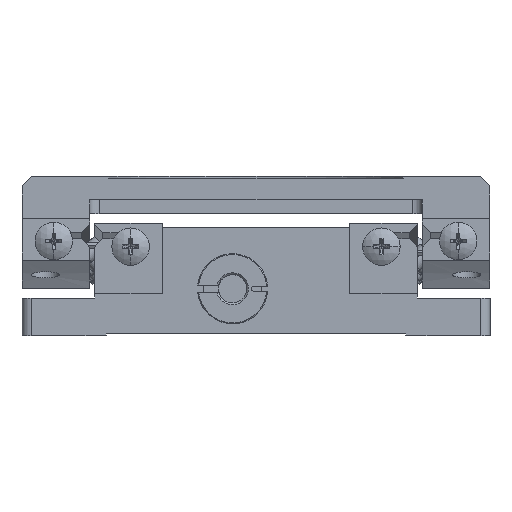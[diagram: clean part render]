
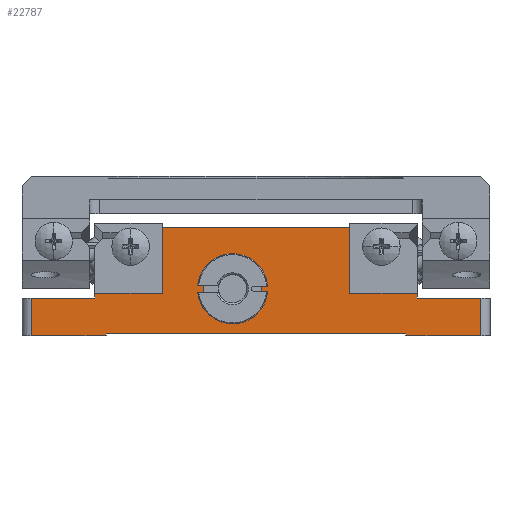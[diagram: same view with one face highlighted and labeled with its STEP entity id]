
A CAD part, front view. The second image highlights one B-rep face of the part: STEP entity #22787.
In plain terms, the highlighted planar face has unit normal (0, -1, 0).
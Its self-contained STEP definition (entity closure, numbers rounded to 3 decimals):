
#815 = VECTOR ( 'NONE', #33371, 1000. ) ;
#1349 = DIRECTION ( 'NONE',  ( 1., 0., 0. ) ) ;
#1507 = ORIENTED_EDGE ( 'NONE', *, *, #43528, .F. ) ;
#1777 = CARTESIAN_POINT ( 'NONE',  ( 25., -25., 6.5 ) ) ;
#2418 = CARTESIAN_POINT ( 'NONE',  ( -17.25, -25., -1. ) ) ;
#2713 = EDGE_CURVE ( 'NONE', #22288, #34341, #23140, .T. ) ;
#3032 = CARTESIAN_POINT ( 'NONE',  ( -25., -25., 7. ) ) ;
#3123 = ORIENTED_EDGE ( 'NONE', *, *, #36102, .T. ) ;
#3154 = CARTESIAN_POINT ( 'NONE',  ( -2.5, -25., 0. ) ) ;
#3488 = EDGE_CURVE ( 'NONE', #13473, #47605, #25960, .T. ) ;
#3535 = CARTESIAN_POINT ( 'NONE',  ( -16., -25., -4.8 ) ) ;
#3538 = CARTESIAN_POINT ( 'NONE',  ( 16., -25., -4.8 ) ) ;
#3641 = EDGE_CURVE ( 'NONE', #53064, #15900, #32505, .T. ) ;
#3981 = CARTESIAN_POINT ( 'NONE',  ( -2.5, -25., 0. ) ) ;
#4367 = VECTOR ( 'NONE', #48666, 1000. ) ;
#4608 = VECTOR ( 'NONE', #45109, 1000. ) ;
#5164 = VERTEX_POINT ( 'NONE', #51922 ) ;
#5243 = CARTESIAN_POINT ( 'NONE',  ( -10., -25., 7. ) ) ;
#5514 = CARTESIAN_POINT ( 'NONE',  ( -25., -25., -5. ) ) ;
#5677 = LINE ( 'NONE', #3535, #4367 ) ;
#5919 = VECTOR ( 'NONE', #51327, 1000. ) ;
#6031 = EDGE_CURVE ( 'NONE', #36303, #12387, #17495, .T. ) ;
#6278 = VECTOR ( 'NONE', #27615, 1000. ) ;
#6536 = LINE ( 'NONE', #1777, #38809 ) ;
#6719 = VECTOR ( 'NONE', #38466, 1000. ) ;
#6900 = DIRECTION ( 'NONE',  ( 0., 0., 1. ) ) ;
#7266 = DIRECTION ( 'NONE',  ( 0., 0., 1. ) ) ;
#7388 = DIRECTION ( 'NONE',  ( 0., 0., -1. ) ) ;
#7488 = VECTOR ( 'NONE', #19828, 1000. ) ;
#7775 = DIRECTION ( 'NONE',  ( 0., 0., -1. ) ) ;
#8212 = DIRECTION ( 'NONE',  ( 0., 0., -1. ) ) ;
#8345 = CARTESIAN_POINT ( 'NONE',  ( 10., -25., 6.5 ) ) ;
#8346 = CIRCLE ( 'NONE', #21272, 3.1 ) ;
#8361 = LINE ( 'NONE', #3538, #51701 ) ;
#8886 = LINE ( 'NONE', #11877, #52225 ) ;
#9634 = LINE ( 'NONE', #5514, #40568 ) ;
#9700 = CARTESIAN_POINT ( 'NONE',  ( -17.25, -25., -0.5 ) ) ;
#9873 = EDGE_CURVE ( 'NONE', #47605, #38324, #8886, .T. ) ;
#10284 = CARTESIAN_POINT ( 'NONE',  ( -24., -25., 7. ) ) ;
#10793 = ORIENTED_EDGE ( 'NONE', *, *, #20583, .T. ) ;
#11037 = VERTEX_POINT ( 'NONE', #11730 ) ;
#11205 = LINE ( 'NONE', #5243, #5919 ) ;
#11675 = VECTOR ( 'NONE', #49552, 1000. ) ;
#11730 = CARTESIAN_POINT ( 'NONE',  ( -10., -25., 6.5 ) ) ;
#11877 = CARTESIAN_POINT ( 'NONE',  ( -25., -25., -5. ) ) ;
#12387 = VERTEX_POINT ( 'NONE', #28390 ) ;
#12409 = CARTESIAN_POINT ( 'NONE',  ( 10., -25., 7. ) ) ;
#12822 = EDGE_CURVE ( 'NONE', #12387, #38324, #5677, .T. ) ;
#13020 = LINE ( 'NONE', #53744, #11675 ) ;
#13473 = VERTEX_POINT ( 'NONE', #34516 ) ;
#13613 = CARTESIAN_POINT ( 'NONE',  ( 16., -25., -5. ) ) ;
#13780 = EDGE_CURVE ( 'NONE', #34341, #53064, #52126, .T. ) ;
#13903 = ORIENTED_EDGE ( 'NONE', *, *, #34628, .T. ) ;
#14697 = ORIENTED_EDGE ( 'NONE', *, *, #3488, .T. ) ;
#15529 = PLANE ( 'NONE',  #25633 ) ;
#15582 = CARTESIAN_POINT ( 'NONE',  ( -25., -25., -0.5 ) ) ;
#15667 = ORIENTED_EDGE ( 'NONE', *, *, #13780, .F. ) ;
#15748 = CARTESIAN_POINT ( 'NONE',  ( -25., -25., -0.5 ) ) ;
#15900 = VERTEX_POINT ( 'NONE', #21071 ) ;
#16138 = LINE ( 'NONE', #32065, #38542 ) ;
#16469 = ORIENTED_EDGE ( 'NONE', *, *, #6031, .F. ) ;
#17245 = ORIENTED_EDGE ( 'NONE', *, *, #21928, .F. ) ;
#17495 = LINE ( 'NONE', #41425, #6278 ) ;
#18068 = EDGE_CURVE ( 'NONE', #5164, #41981, #38981, .T. ) ;
#18472 = ORIENTED_EDGE ( 'NONE', *, *, #9873, .T. ) ;
#19267 = VERTEX_POINT ( 'NONE', #2418 ) ;
#19828 = DIRECTION ( 'NONE',  ( 1., 0., 0. ) ) ;
#20583 = EDGE_CURVE ( 'NONE', #32853, #44635, #49275, .T. ) ;
#21071 = CARTESIAN_POINT ( 'NONE',  ( 17.25, -25., -1. ) ) ;
#21272 = AXIS2_PLACEMENT_3D ( 'NONE', #3154, #32554, #7388 ) ;
#21301 = VECTOR ( 'NONE', #39079, 1000. ) ;
#21928 = EDGE_CURVE ( 'NONE', #32853, #11037, #11205, .T. ) ;
#21932 = CARTESIAN_POINT ( 'NONE',  ( 24., -25., -1. ) ) ;
#22288 = VERTEX_POINT ( 'NONE', #8345 ) ;
#22787 = ADVANCED_FACE ( 'NONE', ( #42589, #46514 ), #15529, .F. ) ;
#23019 = ORIENTED_EDGE ( 'NONE', *, *, #45842, .F. ) ;
#23140 = LINE ( 'NONE', #12409, #815 ) ;
#23169 = DIRECTION ( 'NONE',  ( -1., 0., 0. ) ) ;
#23656 = ORIENTED_EDGE ( 'NONE', *, *, #18068, .T. ) ;
#23824 = CARTESIAN_POINT ( 'NONE',  ( -2.5, -25., 3.1 ) ) ;
#24035 = ORIENTED_EDGE ( 'NONE', *, *, #2713, .F. ) ;
#25221 = EDGE_CURVE ( 'NONE', #15900, #41981, #13020, .T. ) ;
#25297 = ORIENTED_EDGE ( 'NONE', *, *, #51459, .F. ) ;
#25633 = AXIS2_PLACEMENT_3D ( 'NONE', #3032, #32434, #7266 ) ;
#25960 = LINE ( 'NONE', #10284, #48254 ) ;
#27615 = DIRECTION ( 'NONE',  ( -1., 0., 0. ) ) ;
#28390 = CARTESIAN_POINT ( 'NONE',  ( -16., -25., -4.8 ) ) ;
#30748 = VECTOR ( 'NONE', #23169, 1000. ) ;
#31176 = DIRECTION ( 'NONE',  ( 1., 0., 0. ) ) ;
#31278 = ORIENTED_EDGE ( 'NONE', *, *, #12822, .F. ) ;
#32065 = CARTESIAN_POINT ( 'NONE',  ( -17.25, -25., 7. ) ) ;
#32434 = DIRECTION ( 'NONE',  ( 0., 1., 0. ) ) ;
#32505 = LINE ( 'NONE', #51455, #21301 ) ;
#32554 = DIRECTION ( 'NONE',  ( 0., -1., 0. ) ) ;
#32853 = VERTEX_POINT ( 'NONE', #52150 ) ;
#33371 = DIRECTION ( 'NONE',  ( 0., 0., -1. ) ) ;
#33399 = DIRECTION ( 'NONE',  ( 0., -1., 0. ) ) ;
#34341 = VERTEX_POINT ( 'NONE', #50152 ) ;
#34516 = CARTESIAN_POINT ( 'NONE',  ( -24., -25., -1. ) ) ;
#34628 = EDGE_CURVE ( 'NONE', #19267, #13473, #52994, .T. ) ;
#35362 = VERTEX_POINT ( 'NONE', #36897 ) ;
#36018 = CIRCLE ( 'NONE', #51087, 3.1 ) ;
#36048 = CARTESIAN_POINT ( 'NONE',  ( -16., -25., -5. ) ) ;
#36053 = CARTESIAN_POINT ( 'NONE',  ( 16., -25., -4.8 ) ) ;
#36102 = EDGE_CURVE ( 'NONE', #46677, #5164, #9634, .T. ) ;
#36303 = VERTEX_POINT ( 'NONE', #36053 ) ;
#36897 = CARTESIAN_POINT ( 'NONE',  ( -2.5, -25., -3.1 ) ) ;
#38324 = VERTEX_POINT ( 'NONE', #36048 ) ;
#38466 = DIRECTION ( 'NONE',  ( 0., 0., 1. ) ) ;
#38542 = VECTOR ( 'NONE', #6900, 1000. ) ;
#38809 = VECTOR ( 'NONE', #31176, 1000. ) ;
#38981 = LINE ( 'NONE', #51034, #6719 ) ;
#39079 = DIRECTION ( 'NONE',  ( 0., 0., -1. ) ) ;
#39756 = DIRECTION ( 'NONE',  ( 0., 0., -1. ) ) ;
#40568 = VECTOR ( 'NONE', #1349, 1000. ) ;
#41425 = CARTESIAN_POINT ( 'NONE',  ( -25., -25., -4.8 ) ) ;
#41634 = VERTEX_POINT ( 'NONE', #23824 ) ;
#41688 = CARTESIAN_POINT ( 'NONE',  ( 17.25, -25., -0.5 ) ) ;
#41981 = VERTEX_POINT ( 'NONE', #21932 ) ;
#42054 = EDGE_LOOP ( 'NONE', ( #31278, #16469, #48997, #3123, #23656, #42182, #49157, #15667, #24035, #1507, #17245, #10793, #23019, #13903, #14697, #18472 ) ) ;
#42182 = ORIENTED_EDGE ( 'NONE', *, *, #25221, .F. ) ;
#42589 = FACE_BOUND ( 'NONE', #52567, .T. ) ;
#43528 = EDGE_CURVE ( 'NONE', #11037, #22288, #6536, .T. ) ;
#44635 = VERTEX_POINT ( 'NONE', #9700 ) ;
#45109 = DIRECTION ( 'NONE',  ( -1., 0., 0. ) ) ;
#45842 = EDGE_CURVE ( 'NONE', #19267, #44635, #16138, .T. ) ;
#46511 = ORIENTED_EDGE ( 'NONE', *, *, #48053, .F. ) ;
#46514 = FACE_OUTER_BOUND ( 'NONE', #42054, .T. ) ;
#46677 = VERTEX_POINT ( 'NONE', #13613 ) ;
#47605 = VERTEX_POINT ( 'NONE', #54365 ) ;
#48053 = EDGE_CURVE ( 'NONE', #35362, #41634, #8346, .T. ) ;
#48254 = VECTOR ( 'NONE', #39756, 1000. ) ;
#48281 = CARTESIAN_POINT ( 'NONE',  ( -25., -25., -1. ) ) ;
#48666 = DIRECTION ( 'NONE',  ( 0., 0., -1. ) ) ;
#48818 = EDGE_CURVE ( 'NONE', #36303, #46677, #8361, .T. ) ;
#48997 = ORIENTED_EDGE ( 'NONE', *, *, #48818, .T. ) ;
#49157 = ORIENTED_EDGE ( 'NONE', *, *, #3641, .F. ) ;
#49275 = LINE ( 'NONE', #15748, #4608 ) ;
#49552 = DIRECTION ( 'NONE',  ( 1., 0., 0. ) ) ;
#50152 = CARTESIAN_POINT ( 'NONE',  ( 10., -25., -0.5 ) ) ;
#51034 = CARTESIAN_POINT ( 'NONE',  ( 24., -25., 7. ) ) ;
#51087 = AXIS2_PLACEMENT_3D ( 'NONE', #3981, #33399, #8212 ) ;
#51327 = DIRECTION ( 'NONE',  ( 0., 0., 1. ) ) ;
#51455 = CARTESIAN_POINT ( 'NONE',  ( 17.25, -25., 7. ) ) ;
#51459 = EDGE_CURVE ( 'NONE', #41634, #35362, #36018, .T. ) ;
#51701 = VECTOR ( 'NONE', #7775, 1000. ) ;
#51922 = CARTESIAN_POINT ( 'NONE',  ( 24., -25., -5. ) ) ;
#52126 = LINE ( 'NONE', #15582, #7488 ) ;
#52150 = CARTESIAN_POINT ( 'NONE',  ( -10., -25., -0.5 ) ) ;
#52225 = VECTOR ( 'NONE', #53862, 1000. ) ;
#52567 = EDGE_LOOP ( 'NONE', ( #46511, #25297 ) ) ;
#52994 = LINE ( 'NONE', #48281, #30748 ) ;
#53064 = VERTEX_POINT ( 'NONE', #41688 ) ;
#53744 = CARTESIAN_POINT ( 'NONE',  ( -25., -25., -1. ) ) ;
#53862 = DIRECTION ( 'NONE',  ( 1., 0., 0. ) ) ;
#54365 = CARTESIAN_POINT ( 'NONE',  ( -24., -25., -5. ) ) ;
